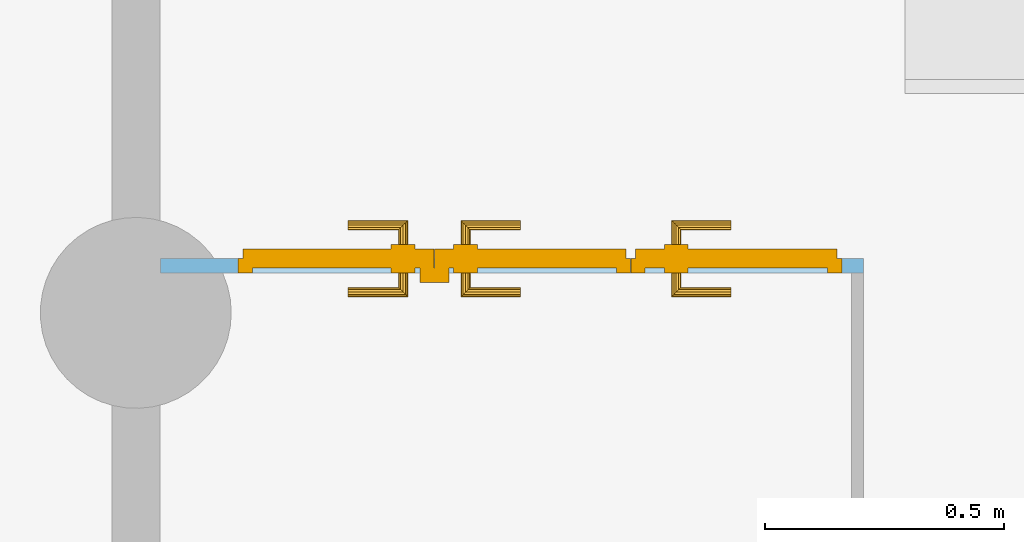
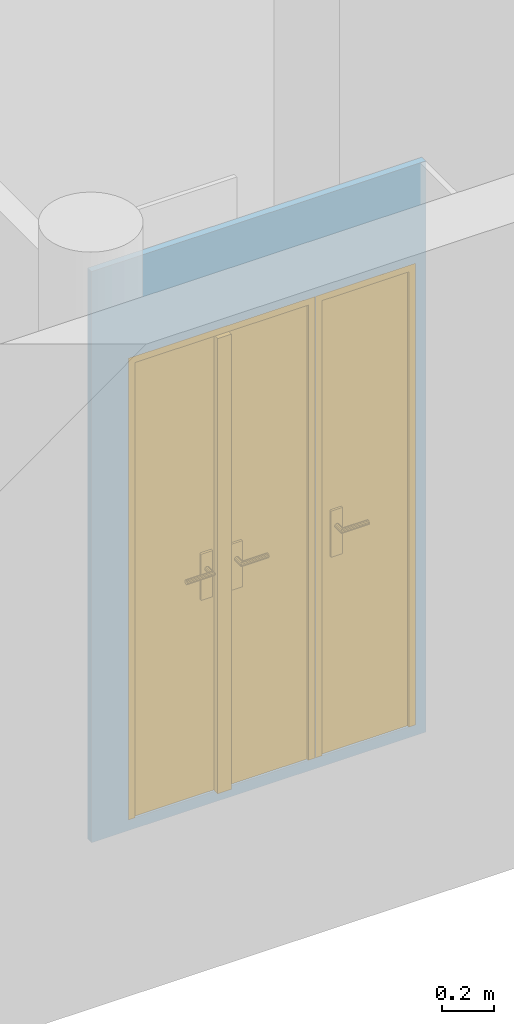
"""IFC4 building model written with IfcOpenShell, lengths in metres."""

from ifc_helpers import new_model, entity, si_unit, converted_unit, derived_unit, frame, frame_2d, origin, origin_with_axes, place, context, subcontext, project, spatial, polyline, rectangle, outline, extrude, faceted_brep, source, transform, mapped, material, layer, layer_set, layer_usage, element, fill, save


model = new_model("IFC4")

# Units and contexts
model_context = context("Model", 3, precision=1e-05, world=origin())
body_context = subcontext(model_context, "Body", "Model", "MODEL_VIEW")
ifc_project = project(units=[si_unit("LENGTHUNIT", "METRE"), si_unit("AREAUNIT", "SQUARE_METRE"), si_unit("VOLUMEUNIT", "CUBIC_METRE"), si_unit("MASSUNIT", "GRAM", prefix="KILO"), converted_unit("PLANEANGLEUNIT", "DEGREE", entity("IfcPlaneAngleMeasure", 0.0174532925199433), si_unit("PLANEANGLEUNIT", "RADIAN"), dimensions=[0, 0, 0, 0, 0, 0, 0]), derived_unit("THERMALTRANSMITTANCEUNIT", [(si_unit("POWERUNIT", "WATT"), 1), (si_unit("THERMODYNAMICTEMPERATUREUNIT", "KELVIN"), -1), (si_unit("LENGTHUNIT", "METRE"), -2)]), derived_unit("VOLUMETRICFLOWRATEUNIT", [(si_unit("LENGTHUNIT", "METRE"), 3), (converted_unit("TIMEUNIT", "hour", entity("IfcTimeMeasure", 3600.0), si_unit("TIMEUNIT", "SECOND"), dimensions=[0, 0, 1, 0, 0, 0, 0]), -1), (si_unit("LENGTHUNIT", "METRE"), -1)])], contexts=[model_context])

# Building, storeys
building_placement = place(None, origin())
building = spatial("IfcBuilding", under=ifc_project, at=building_placement, Name="HABITATGE PLURIFAMILIAR", CompositionType="ELEMENT")
storey_1_placement = place(building_placement, frame((0.0, 0.0, 6.25)))
storey_1 = spatial("IfcBuildingStorey", under=building, at=storey_1_placement, Name="PLANTA PRIMERA", CompositionType="ELEMENT", Elevation=6.25)
storey_2_placement = place(storey_1_placement, frame((0.0, 0.0, 3.35)))
storey_2 = spatial("IfcBuildingStorey", under=storey_1, at=storey_2_placement, Name="NOU", CompositionType="PARTIAL")

# Wall, openings, doors
ifc_material = material()
ifc_layer = layer(ifc_material, 0.03)
ifc_layer_set = layer_set([ifc_layer])
ifc_layer_usage = layer_usage(ifc_layer_set, "AXIS2", "POSITIVE", 0.0)
wall_placement = place(storey_2_placement, frame((407.361610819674, 13.7631365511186, -3.4), z_axis=(0.0, 0.0, 1.0), x_axis=(-1.0, 0.0, 0.0)))
wall = element("IfcWall", 1, at=wall_placement, inside=storey_2, material=ifc_layer_usage, Name="Evans PA", context=body_context, shape_type="SweptSolid", body=[
    extrude(rectangle(XDim=1.4727305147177, YDim=0.03, at=frame_2d((0.736365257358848, 0.015), x_axis=(1.0, 0.0))), origin_with_axes(), (0.0, 0.0, 1.0), 2.66),
])
opening_1_placement = place(wall_placement, frame((0.487834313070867, 0.0, 0.05), z_axis=(0.0, 1.0, 0.0), x_axis=(0.0, 0.0, 1.0)))
opening_1 = element("IfcOpeningElement", 2, at=opening_1_placement, cuts=wall, Name="Vano de puerta PA", ObjectType="Opening", context=body_context, shape_type="SweptSolid", body=[
    extrude(outline(polyline([(2.15, 0.822674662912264), (2.15, 0.0), (0.0, 0.0), (0.0, 0.822674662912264), (2.15, 0.822674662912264)])), origin_with_axes(), (0.0, 0.0, 1.0), 0.03),
])
opening_2_placement = place(wall_placement, frame((0.0452878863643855, 0.0, 0.05), z_axis=(0.0, 1.0, 0.0), x_axis=(0.0, 0.0, 1.0)))
opening_2 = element("IfcOpeningElement", 3, at=opening_2_placement, cuts=wall, Name="Vano de puerta PA", ObjectType="Opening", context=body_context, shape_type="SweptSolid", body=[
    extrude(outline(polyline([(2.15, 0.441930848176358), (2.15, 0.0), (0.0, 0.0), (0.0, 0.441930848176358), (2.15, 0.441930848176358)])), origin_with_axes(), (0.0, 0.0, 1.0), 0.03),
])
shared_shape_1 = source(origin_with_axes(), body_context, "Body", "Brep", [
    faceted_brep([(0.822674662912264, 0.03, 2.15), (0.792674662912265, 0.03, 2.15), (0.792674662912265, 0.03, 0.0), (0.822674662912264, 0.03, 0.0), (0.822674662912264, 0.0, 0.0), (0.792674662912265, 0.0, 0.0), (0.792674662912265, 0.0, 2.15), (0.822674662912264, 0.0, 2.15)], [[[0, 1, 2, 3]], [[4, 5, 6, 7]], [[3, 4, 7, 0]], [[2, 5, 4, 3]], [[1, 6, 5, 2]], [[0, 7, 6, 1]]], orient=[[False], [False], [False], [False], [False], [False]]),
    faceted_brep([(0.03, 0.03, 2.15), (0.0, 0.03, 2.15), (0.0, 0.03, 0.0), (0.03, 0.03, 0.0), (0.03, 0.0, 0.0), (0.0, 0.0, 0.0), (0.0, 0.0, 2.15), (0.03, 0.0, 2.15)], [[[0, 1, 2, 3]], [[4, 5, 6, 7]], [[3, 4, 7, 0]], [[2, 5, 4, 3]], [[1, 6, 5, 2]], [[0, 7, 6, 1]]], orient=[[False], [False], [False], [False], [False], [False]]),
    faceted_brep([(0.792674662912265, 0.03, 2.15), (0.03, 0.03, 2.15), (0.03, 0.03, 2.12), (0.792674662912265, 0.03, 2.12), (0.792674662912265, 0.0, 2.12), (0.03, 0.0, 2.12), (0.03, 0.0, 2.15), (0.792674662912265, 0.0, 2.15)], [[[0, 1, 2, 3]], [[4, 5, 6, 7]], [[3, 4, 7, 0]], [[2, 5, 4, 3]], [[1, 6, 5, 2]], [[0, 7, 6, 1]]], orient=[[False], [False], [False], [False], [False], [False]]),
    faceted_brep([(0.812674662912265, 0.05, 2.14), (0.411837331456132, 0.05, 2.14), (0.411837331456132, 0.05, 0.0), (0.812674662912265, 0.05, 0.0), (0.812674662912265, 0.01, 0.0), (0.411837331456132, 0.01, 0.0), (0.411837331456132, 0.01, 2.14), (0.812674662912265, 0.01, 2.14)], [[[0, 1, 2, 3]], [[4, 5, 6, 7]], [[3, 4, 7, 0]], [[2, 5, 4, 3]], [[1, 6, 5, 2]], [[0, 7, 6, 1]]], orient=[[False], [False], [False], [False], [False], [False]]),
    faceted_brep([(0.441837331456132, 0.01, 2.12), (0.381837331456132, 0.01, 2.12), (0.381837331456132, 0.01, 0.0), (0.441837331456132, 0.01, 0.0), (0.441837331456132, -0.02, 0.0), (0.381837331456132, -0.02, 0.0), (0.381837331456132, -0.02, 2.12), (0.441837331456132, -0.02, 2.12)], [[[0, 1, 2, 3]], [[4, 5, 6, 7]], [[3, 4, 7, 0]], [[2, 5, 4, 3]], [[1, 6, 5, 2]], [[0, 7, 6, 1]]], orient=[[False], [False], [False], [False], [False], [False]]),
    faceted_brep([(0.50183733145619, 0.01, 1.125), (0.451837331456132, 0.01, 1.125), (0.451837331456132, 0.01, 0.91), (0.50183733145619, 0.01, 0.91), (0.50183733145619, 0.0, 0.91), (0.451837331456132, 0.0, 0.91), (0.451837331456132, 0.0, 1.125), (0.50183733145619, 0.0, 1.125)], [[[0, 1, 2, 3]], [[4, 5, 6, 7]], [[3, 4, 7, 0]], [[2, 5, 4, 3]], [[1, 6, 5, 2]], [[0, 7, 6, 1]]], orient=[[False], [False], [False], [False], [False], [False]]),
    faceted_brep([(0.476837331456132, 0.0, 1.06), (0.471837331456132, 0.0, 1.05866025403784), (0.46817707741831, 0.0, 1.055), (0.466837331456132, 0.0, 1.05), (0.46817707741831, 0.0, 1.045), (0.471837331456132, 0.0, 1.04133974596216), (0.476837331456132, 0.0, 1.04), (0.481837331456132, 0.0, 1.04133974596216), (0.485497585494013, 0.0, 1.045), (0.486837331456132, 0.0, 1.05), (0.485497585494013, 0.0, 1.055), (0.481837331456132, 0.0, 1.05866025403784), (0.476837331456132, -0.04, 1.06), (0.471837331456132, -0.045, 1.05866025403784), (0.46817707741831, -0.0486602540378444, 1.055), (0.466837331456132, -0.05, 1.05), (0.46817707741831, -0.0486602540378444, 1.045), (0.471837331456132, -0.045, 1.04133974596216), (0.476837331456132, -0.04, 1.04), (0.481837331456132, -0.035, 1.04133974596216), (0.485497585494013, -0.0313397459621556, 1.045), (0.486837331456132, -0.03, 1.05), (0.485497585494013, -0.0313397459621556, 1.055), (0.481837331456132, -0.035, 1.05866025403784), (0.59183733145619, -0.04, 1.06), (0.59183733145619, -0.035, 1.05866025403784), (0.59183733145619, -0.0313397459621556, 1.055), (0.59183733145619, -0.03, 1.05), (0.59183733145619, -0.0313397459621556, 1.045), (0.59183733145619, -0.035, 1.04133974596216), (0.59183733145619, -0.04, 1.04), (0.59183733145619, -0.045, 1.04133974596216), (0.59183733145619, -0.0486602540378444, 1.045), (0.59183733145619, -0.05, 1.05), (0.59183733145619, -0.0486602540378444, 1.055), (0.59183733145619, -0.045, 1.05866025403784)], [[[0, 1, 2, 3, 4, 5, 6, 7, 8, 9, 10, 11]], [[0, 12, 13, 1]], [[1, 13, 14, 2]], [[2, 14, 15, 3]], [[3, 15, 16, 4]], [[4, 16, 17, 5]], [[5, 17, 18, 6]], [[6, 18, 19, 7]], [[7, 19, 20, 8]], [[8, 20, 21, 9]], [[9, 21, 22, 10]], [[10, 22, 23, 11]], [[11, 23, 12, 0]], [[24, 25, 26, 27, 28, 29, 30, 31, 32, 33, 34, 35]], [[12, 24, 35, 13]], [[13, 35, 34, 14]], [[14, 34, 33, 15]], [[15, 33, 32, 16]], [[16, 32, 31, 17]], [[17, 31, 30, 18]], [[18, 30, 29, 19]], [[19, 29, 28, 20]], [[20, 28, 27, 21]], [[21, 27, 26, 22]], [[22, 26, 25, 23]], [[23, 25, 24, 12]]], orient=[[False], [False], [False], [False], [False], [False], [False], [False], [False], [False], [False], [False], [False], [False], [False], [False], [False], [False], [False], [False], [False], [False], [False], [False], [False], [False]]),
    faceted_brep([(0.50183733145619, 0.05, 1.125), (0.50183733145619, 0.05, 0.91), (0.451837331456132, 0.05, 0.91), (0.451837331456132, 0.05, 1.125), (0.50183733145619, 0.06, 0.91), (0.50183733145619, 0.06, 1.125), (0.451837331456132, 0.06, 1.125), (0.451837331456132, 0.06, 0.91)], [[[0, 1, 2, 3]], [[4, 5, 6, 7]], [[1, 0, 5, 4]], [[2, 1, 4, 7]], [[3, 2, 7, 6]], [[0, 3, 6, 5]]], orient=[[False], [False], [False], [False], [False], [False]]),
    faceted_brep([(0.476837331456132, 0.06, 1.06), (0.481837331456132, 0.06, 1.05866025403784), (0.485497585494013, 0.06, 1.055), (0.486837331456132, 0.06, 1.05), (0.485497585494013, 0.06, 1.045), (0.481837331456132, 0.06, 1.04133974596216), (0.476837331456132, 0.06, 1.04), (0.471837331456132, 0.06, 1.04133974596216), (0.46817707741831, 0.06, 1.045), (0.466837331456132, 0.06, 1.05), (0.46817707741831, 0.06, 1.055), (0.471837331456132, 0.06, 1.05866025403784), (0.471837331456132, 0.105, 1.05866025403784), (0.476837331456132, 0.1, 1.06), (0.46817707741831, 0.108660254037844, 1.055), (0.466837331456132, 0.11, 1.05), (0.46817707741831, 0.108660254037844, 1.045), (0.471837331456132, 0.105, 1.04133974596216), (0.476837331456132, 0.1, 1.04), (0.481837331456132, 0.095, 1.04133974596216), (0.485497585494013, 0.0913397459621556, 1.045), (0.486837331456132, 0.09, 1.05), (0.485497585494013, 0.0913397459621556, 1.055), (0.481837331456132, 0.095, 1.05866025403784), (0.59183733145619, 0.1, 1.06), (0.59183733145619, 0.105, 1.05866025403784), (0.59183733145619, 0.108660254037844, 1.055), (0.59183733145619, 0.11, 1.05), (0.59183733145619, 0.108660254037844, 1.045), (0.59183733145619, 0.105, 1.04133974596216), (0.59183733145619, 0.1, 1.04), (0.59183733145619, 0.095, 1.04133974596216), (0.59183733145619, 0.0913397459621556, 1.045), (0.59183733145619, 0.09, 1.05), (0.59183733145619, 0.0913397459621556, 1.055), (0.59183733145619, 0.095, 1.05866025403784)], [[[0, 1, 2, 3, 4, 5, 6, 7, 8, 9, 10, 11]], [[0, 11, 12, 13]], [[11, 10, 14, 12]], [[10, 9, 15, 14]], [[9, 8, 16, 15]], [[8, 7, 17, 16]], [[7, 6, 18, 17]], [[6, 5, 19, 18]], [[5, 4, 20, 19]], [[4, 3, 21, 20]], [[3, 2, 22, 21]], [[2, 1, 23, 22]], [[1, 0, 13, 23]], [[24, 25, 26, 27, 28, 29, 30, 31, 32, 33, 34, 35]], [[13, 12, 25, 24]], [[12, 14, 26, 25]], [[14, 15, 27, 26]], [[15, 16, 28, 27]], [[16, 17, 29, 28]], [[17, 18, 30, 29]], [[18, 19, 31, 30]], [[19, 20, 32, 31]], [[20, 21, 33, 32]], [[21, 22, 34, 33]], [[22, 23, 35, 34]], [[23, 13, 24, 35]]], orient=[[False], [False], [False], [False], [False], [False], [False], [False], [False], [False], [False], [False], [False], [False], [False], [False], [False], [False], [False], [False], [False], [False], [False], [False], [False], [False]]),
    faceted_brep([(0.410837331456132, 0.05, 2.14), (0.01, 0.05, 2.14), (0.01, 0.05, 0.0), (0.410837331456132, 0.05, 0.0), (0.410837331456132, 0.01, 0.0), (0.01, 0.01, 0.0), (0.01, 0.01, 2.14), (0.410837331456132, 0.01, 2.14)], [[[0, 1, 2, 3]], [[4, 5, 6, 7]], [[3, 4, 7, 0]], [[2, 5, 4, 3]], [[1, 6, 5, 2]], [[0, 7, 6, 1]]], orient=[[False], [False], [False], [False], [False], [False]]),
    faceted_brep([(0.370837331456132, 0.01, 1.125), (0.320837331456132, 0.01, 1.125), (0.320837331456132, 0.01, 0.91), (0.370837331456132, 0.01, 0.91), (0.370837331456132, 0.0, 0.91), (0.320837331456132, 0.0, 0.91), (0.320837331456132, 0.0, 1.125), (0.370837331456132, 0.0, 1.125)], [[[0, 1, 2, 3]], [[4, 5, 6, 7]], [[3, 4, 7, 0]], [[2, 5, 4, 3]], [[1, 6, 5, 2]], [[0, 7, 6, 1]]], orient=[[False], [False], [False], [False], [False], [False]]),
    faceted_brep([(0.345837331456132, 0.0, 1.06), (0.340837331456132, 0.0, 1.05866025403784), (0.337177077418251, 0.0, 1.055), (0.335837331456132, 0.0, 1.05), (0.337177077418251, 0.0, 1.045), (0.340837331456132, 0.0, 1.04133974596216), (0.345837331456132, 0.0, 1.04), (0.350837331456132, 0.0, 1.04133974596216), (0.354497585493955, 0.0, 1.045), (0.355837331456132, 0.0, 1.05), (0.354497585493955, 0.0, 1.055), (0.350837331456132, 0.0, 1.05866025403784), (0.350837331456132, -0.045, 1.05866025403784), (0.345837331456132, -0.04, 1.06), (0.354497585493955, -0.0486602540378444, 1.055), (0.355837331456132, -0.05, 1.05), (0.354497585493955, -0.0486602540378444, 1.045), (0.350837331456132, -0.045, 1.04133974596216), (0.345837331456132, -0.04, 1.04), (0.340837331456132, -0.035, 1.04133974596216), (0.337177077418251, -0.0313397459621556, 1.045), (0.335837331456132, -0.03, 1.05), (0.337177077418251, -0.0313397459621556, 1.055), (0.340837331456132, -0.035, 1.05866025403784), (0.230837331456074, -0.04, 1.06), (0.230837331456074, -0.045, 1.05866025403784), (0.230837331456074, -0.0486602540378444, 1.055), (0.230837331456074, -0.05, 1.05), (0.230837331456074, -0.0486602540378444, 1.045), (0.230837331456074, -0.045, 1.04133974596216), (0.230837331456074, -0.04, 1.04), (0.230837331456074, -0.035, 1.04133974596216), (0.230837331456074, -0.0313397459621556, 1.045), (0.230837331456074, -0.03, 1.05), (0.230837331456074, -0.0313397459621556, 1.055), (0.230837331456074, -0.035, 1.05866025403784)], [[[0, 1, 2, 3, 4, 5, 6, 7, 8, 9, 10, 11]], [[0, 11, 12, 13]], [[11, 10, 14, 12]], [[10, 9, 15, 14]], [[9, 8, 16, 15]], [[8, 7, 17, 16]], [[7, 6, 18, 17]], [[6, 5, 19, 18]], [[5, 4, 20, 19]], [[4, 3, 21, 20]], [[3, 2, 22, 21]], [[2, 1, 23, 22]], [[1, 0, 13, 23]], [[24, 25, 26, 27, 28, 29, 30, 31, 32, 33, 34, 35]], [[13, 12, 25, 24]], [[12, 14, 26, 25]], [[14, 15, 27, 26]], [[15, 16, 28, 27]], [[16, 17, 29, 28]], [[17, 18, 30, 29]], [[18, 19, 31, 30]], [[19, 20, 32, 31]], [[20, 21, 33, 32]], [[21, 22, 34, 33]], [[22, 23, 35, 34]], [[23, 13, 24, 35]]], orient=[[False], [False], [False], [False], [False], [False], [False], [False], [False], [False], [False], [False], [False], [False], [False], [False], [False], [False], [False], [False], [False], [False], [False], [False], [False], [False]]),
    faceted_brep([(0.370837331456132, 0.05, 1.125), (0.370837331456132, 0.05, 0.91), (0.320837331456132, 0.05, 0.91), (0.320837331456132, 0.05, 1.125), (0.370837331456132, 0.06, 0.91), (0.370837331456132, 0.06, 1.125), (0.320837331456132, 0.06, 1.125), (0.320837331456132, 0.06, 0.91)], [[[0, 1, 2, 3]], [[4, 5, 6, 7]], [[1, 0, 5, 4]], [[2, 1, 4, 7]], [[3, 2, 7, 6]], [[0, 3, 6, 5]]], orient=[[False], [False], [False], [False], [False], [False]]),
    faceted_brep([(0.345837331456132, 0.06, 1.06), (0.350837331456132, 0.06, 1.05866025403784), (0.354497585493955, 0.06, 1.055), (0.355837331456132, 0.06, 1.05), (0.354497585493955, 0.06, 1.045), (0.350837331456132, 0.06, 1.04133974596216), (0.345837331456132, 0.06, 1.04), (0.340837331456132, 0.06, 1.04133974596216), (0.337177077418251, 0.06, 1.045), (0.335837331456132, 0.06, 1.05), (0.337177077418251, 0.06, 1.055), (0.340837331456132, 0.06, 1.05866025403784), (0.345837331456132, 0.1, 1.06), (0.350837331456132, 0.105, 1.05866025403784), (0.354497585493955, 0.108660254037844, 1.055), (0.355837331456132, 0.11, 1.05), (0.354497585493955, 0.108660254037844, 1.045), (0.350837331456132, 0.105, 1.04133974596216), (0.345837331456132, 0.1, 1.04), (0.340837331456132, 0.095, 1.04133974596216), (0.337177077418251, 0.0913397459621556, 1.045), (0.335837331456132, 0.09, 1.05), (0.337177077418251, 0.0913397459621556, 1.055), (0.340837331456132, 0.095, 1.05866025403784), (0.230837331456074, 0.1, 1.06), (0.230837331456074, 0.095, 1.05866025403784), (0.230837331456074, 0.0913397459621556, 1.055), (0.230837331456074, 0.09, 1.05), (0.230837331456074, 0.0913397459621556, 1.045), (0.230837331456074, 0.095, 1.04133974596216), (0.230837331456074, 0.1, 1.04), (0.230837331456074, 0.105, 1.04133974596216), (0.230837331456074, 0.108660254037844, 1.045), (0.230837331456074, 0.11, 1.05), (0.230837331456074, 0.108660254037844, 1.055), (0.230837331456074, 0.105, 1.05866025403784)], [[[0, 1, 2, 3, 4, 5, 6, 7, 8, 9, 10, 11]], [[0, 12, 13, 1]], [[1, 13, 14, 2]], [[2, 14, 15, 3]], [[3, 15, 16, 4]], [[4, 16, 17, 5]], [[5, 17, 18, 6]], [[6, 18, 19, 7]], [[7, 19, 20, 8]], [[8, 20, 21, 9]], [[9, 21, 22, 10]], [[10, 22, 23, 11]], [[11, 23, 12, 0]], [[24, 25, 26, 27, 28, 29, 30, 31, 32, 33, 34, 35]], [[12, 24, 35, 13]], [[13, 35, 34, 14]], [[14, 34, 33, 15]], [[15, 33, 32, 16]], [[16, 32, 31, 17]], [[17, 31, 30, 18]], [[18, 30, 29, 19]], [[19, 29, 28, 20]], [[20, 28, 27, 21]], [[21, 27, 26, 22]], [[22, 26, 25, 23]], [[23, 25, 24, 12]]], orient=[[False], [False], [False], [False], [False], [False], [False], [False], [False], [False], [False], [False], [False], [False], [False], [False], [False], [False], [False], [False], [False], [False], [False], [False], [False], [False]]),
])
door_1_placement = place(opening_1_placement, frame((0.0, 0.822674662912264, 0.03), z_axis=(1.0, 0.0, 0.0), x_axis=(0.0, -1.0, 0.0)))
door_1 = element("IfcDoor", 4, at=door_1_placement, inside=storey_2, Name="Porta PA", OperationType="USERDEFINED", OverallHeight=2.15, OverallWidth=0.82267, PredefinedType="DOOR", context=body_context, shape_type="MappedRepresentation", body=[
    mapped(shared_shape_1, transform((0.0, 0.0, 0.0), x_axis=(1.0, 0.0, 0.0), y_axis=(0.0, 1.0, 0.0), z_axis=(0.0, 0.0, 1.0), scale=1.0)),
])
fill(opening_1, door_1)
shared_shape_2 = source(origin_with_axes(), body_context, "Body", "Brep", [
    faceted_brep([(0.0, 0.03, 2.15), (0.0, 0.03, 0.0), (0.03, 0.03, 0.0), (0.03, 0.03, 2.15), (0.0, 0.0, 0.0), (0.0, 0.0, 2.15), (0.03, 0.0, 2.15), (0.03, 0.0, 0.0)], [[[0, 1, 2, 3]], [[4, 5, 6, 7]], [[1, 0, 5, 4]], [[2, 1, 4, 7]], [[3, 2, 7, 6]], [[0, 3, 6, 5]]], orient=[[False], [False], [False], [False], [False], [False]]),
    faceted_brep([(0.411930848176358, 0.03, 2.15), (0.411930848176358, 0.03, 0.0), (0.441930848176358, 0.03, 0.0), (0.441930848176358, 0.03, 2.15), (0.411930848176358, 0.0, 0.0), (0.411930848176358, 0.0, 2.15), (0.441930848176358, 0.0, 2.15), (0.441930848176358, 0.0, 0.0)], [[[0, 1, 2, 3]], [[4, 5, 6, 7]], [[1, 0, 5, 4]], [[2, 1, 4, 7]], [[3, 2, 7, 6]], [[0, 3, 6, 5]]], orient=[[False], [False], [False], [False], [False], [False]]),
    faceted_brep([(0.03, 0.03, 2.15), (0.03, 0.03, 2.12), (0.411930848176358, 0.03, 2.12), (0.411930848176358, 0.03, 2.15), (0.03, 0.0, 2.12), (0.03, 0.0, 2.15), (0.411930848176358, 0.0, 2.15), (0.411930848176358, 0.0, 2.12)], [[[0, 1, 2, 3]], [[4, 5, 6, 7]], [[1, 0, 5, 4]], [[2, 1, 4, 7]], [[3, 2, 7, 6]], [[0, 3, 6, 5]]], orient=[[False], [False], [False], [False], [False], [False]]),
    faceted_brep([(0.01, 0.05, 2.14), (0.01, 0.05, 0.0), (0.431930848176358, 0.05, 0.0), (0.431930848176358, 0.05, 2.14), (0.01, 0.01, 0.0), (0.01, 0.01, 2.14), (0.431930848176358, 0.01, 2.14), (0.431930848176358, 0.01, 0.0)], [[[0, 1, 2, 3]], [[4, 5, 6, 7]], [[1, 0, 5, 4]], [[2, 1, 4, 7]], [[3, 2, 7, 6]], [[0, 3, 6, 5]]], orient=[[False], [False], [False], [False], [False], [False]]),
    faceted_brep([(0.0700000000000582, 0.01, 1.125), (0.0700000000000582, 0.01, 0.91), (0.120000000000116, 0.01, 0.91), (0.120000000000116, 0.01, 1.125), (0.0700000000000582, 0.0, 0.91), (0.0700000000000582, 0.0, 1.125), (0.120000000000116, 0.0, 1.125), (0.120000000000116, 0.0, 0.91)], [[[0, 1, 2, 3]], [[4, 5, 6, 7]], [[1, 0, 5, 4]], [[2, 1, 4, 7]], [[3, 2, 7, 6]], [[0, 3, 6, 5]]], orient=[[False], [False], [False], [False], [False], [False]]),
    faceted_brep([(0.0950000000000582, 0.0, 1.06), (0.0900000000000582, 0.0, 1.05866025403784), (0.0863397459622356, 0.0, 1.055), (0.0850000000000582, 0.0, 1.05), (0.0863397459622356, 0.0, 1.045), (0.0900000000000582, 0.0, 1.04133974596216), (0.0950000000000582, 0.0, 1.04), (0.100000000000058, 0.0, 1.04133974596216), (0.103660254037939, 0.0, 1.045), (0.105000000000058, 0.0, 1.05), (0.103660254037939, 0.0, 1.055), (0.100000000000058, 0.0, 1.05866025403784), (0.0950000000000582, -0.04, 1.06), (0.0900000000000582, -0.045, 1.05866025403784), (0.0863397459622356, -0.0486602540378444, 1.055), (0.0850000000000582, -0.05, 1.05), (0.0863397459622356, -0.0486602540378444, 1.045), (0.0900000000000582, -0.045, 1.04133974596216), (0.0950000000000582, -0.04, 1.04), (0.100000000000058, -0.035, 1.04133974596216), (0.103660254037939, -0.0313397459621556, 1.045), (0.105000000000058, -0.03, 1.05), (0.103660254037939, -0.0313397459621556, 1.055), (0.100000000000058, -0.035, 1.05866025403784), (0.210000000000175, -0.04, 1.06), (0.210000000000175, -0.035, 1.05866025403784), (0.210000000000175, -0.0313397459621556, 1.055), (0.210000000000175, -0.03, 1.05), (0.210000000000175, -0.0313397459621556, 1.045), (0.210000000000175, -0.035, 1.04133974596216), (0.210000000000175, -0.04, 1.04), (0.210000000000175, -0.045, 1.04133974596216), (0.210000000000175, -0.0486602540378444, 1.045), (0.210000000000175, -0.05, 1.05), (0.210000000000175, -0.0486602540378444, 1.055), (0.210000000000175, -0.045, 1.05866025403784)], [[[0, 1, 2, 3, 4, 5, 6, 7, 8, 9, 10, 11]], [[0, 12, 13, 1]], [[1, 13, 14, 2]], [[2, 14, 15, 3]], [[3, 15, 16, 4]], [[4, 16, 17, 5]], [[5, 17, 18, 6]], [[6, 18, 19, 7]], [[7, 19, 20, 8]], [[8, 20, 21, 9]], [[9, 21, 22, 10]], [[10, 22, 23, 11]], [[11, 23, 12, 0]], [[24, 25, 26, 27, 28, 29, 30, 31, 32, 33, 34, 35]], [[12, 24, 35, 13]], [[13, 35, 34, 14]], [[14, 34, 33, 15]], [[15, 33, 32, 16]], [[16, 32, 31, 17]], [[17, 31, 30, 18]], [[18, 30, 29, 19]], [[19, 29, 28, 20]], [[20, 28, 27, 21]], [[21, 27, 26, 22]], [[22, 26, 25, 23]], [[23, 25, 24, 12]]], orient=[[False], [False], [False], [False], [False], [False], [False], [False], [False], [False], [False], [False], [False], [False], [False], [False], [False], [False], [False], [False], [False], [False], [False], [False], [False], [False]]),
    faceted_brep([(0.0700000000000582, 0.05, 1.125), (0.120000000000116, 0.05, 1.125), (0.120000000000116, 0.05, 0.91), (0.0700000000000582, 0.05, 0.91), (0.0700000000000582, 0.06, 0.91), (0.120000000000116, 0.06, 0.91), (0.120000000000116, 0.06, 1.125), (0.0700000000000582, 0.06, 1.125)], [[[0, 1, 2, 3]], [[4, 5, 6, 7]], [[3, 4, 7, 0]], [[2, 5, 4, 3]], [[1, 6, 5, 2]], [[0, 7, 6, 1]]], orient=[[False], [False], [False], [False], [False], [False]]),
    faceted_brep([(0.0950000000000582, 0.06, 1.06), (0.100000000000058, 0.06, 1.05866025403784), (0.103660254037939, 0.06, 1.055), (0.105000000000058, 0.06, 1.05), (0.103660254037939, 0.06, 1.045), (0.100000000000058, 0.06, 1.04133974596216), (0.0950000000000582, 0.06, 1.04), (0.0900000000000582, 0.06, 1.04133974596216), (0.0863397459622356, 0.06, 1.045), (0.0850000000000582, 0.06, 1.05), (0.0863397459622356, 0.06, 1.055), (0.0900000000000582, 0.06, 1.05866025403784), (0.0900000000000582, 0.105, 1.05866025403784), (0.0950000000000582, 0.1, 1.06), (0.0863397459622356, 0.108660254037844, 1.055), (0.0850000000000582, 0.11, 1.05), (0.0863397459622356, 0.108660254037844, 1.045), (0.0900000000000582, 0.105, 1.04133974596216), (0.0950000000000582, 0.1, 1.04), (0.100000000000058, 0.095, 1.04133974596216), (0.103660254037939, 0.0913397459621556, 1.045), (0.105000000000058, 0.09, 1.05), (0.103660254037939, 0.0913397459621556, 1.055), (0.100000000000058, 0.095, 1.05866025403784), (0.210000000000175, 0.1, 1.06), (0.210000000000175, 0.105, 1.05866025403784), (0.210000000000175, 0.108660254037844, 1.055), (0.210000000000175, 0.11, 1.05), (0.210000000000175, 0.108660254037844, 1.045), (0.210000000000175, 0.105, 1.04133974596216), (0.210000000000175, 0.1, 1.04), (0.210000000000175, 0.095, 1.04133974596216), (0.210000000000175, 0.0913397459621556, 1.045), (0.210000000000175, 0.09, 1.05), (0.210000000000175, 0.0913397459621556, 1.055), (0.210000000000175, 0.095, 1.05866025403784)], [[[0, 1, 2, 3, 4, 5, 6, 7, 8, 9, 10, 11]], [[0, 11, 12, 13]], [[11, 10, 14, 12]], [[10, 9, 15, 14]], [[9, 8, 16, 15]], [[8, 7, 17, 16]], [[7, 6, 18, 17]], [[6, 5, 19, 18]], [[5, 4, 20, 19]], [[4, 3, 21, 20]], [[3, 2, 22, 21]], [[2, 1, 23, 22]], [[1, 0, 13, 23]], [[24, 25, 26, 27, 28, 29, 30, 31, 32, 33, 34, 35]], [[13, 12, 25, 24]], [[12, 14, 26, 25]], [[14, 15, 27, 26]], [[15, 16, 28, 27]], [[16, 17, 29, 28]], [[17, 18, 30, 29]], [[18, 19, 31, 30]], [[19, 20, 32, 31]], [[20, 21, 33, 32]], [[21, 22, 34, 33]], [[22, 23, 35, 34]], [[23, 13, 24, 35]]], orient=[[False], [False], [False], [False], [False], [False], [False], [False], [False], [False], [False], [False], [False], [False], [False], [False], [False], [False], [False], [False], [False], [False], [False], [False], [False], [False]]),
])
door_2_placement = place(opening_2_placement, frame((0.0, 0.441930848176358, 0.03), z_axis=(1.0, 0.0, 0.0), x_axis=(0.0, -1.0, 0.0)))
door_2 = element("IfcDoor", 5, at=door_2_placement, inside=storey_2, Name="Porta P1", OperationType="USERDEFINED", OverallHeight=2.15, OverallWidth=0.44193, PredefinedType="DOOR", context=body_context, shape_type="MappedRepresentation", body=[
    mapped(shared_shape_2, transform((0.0, 0.0, 0.0), x_axis=(1.0, 0.0, 0.0), y_axis=(0.0, 1.0, 0.0), z_axis=(0.0, 0.0, 1.0), scale=1.0)),
])
fill(opening_2, door_2)

save(model, "model.ifc")
